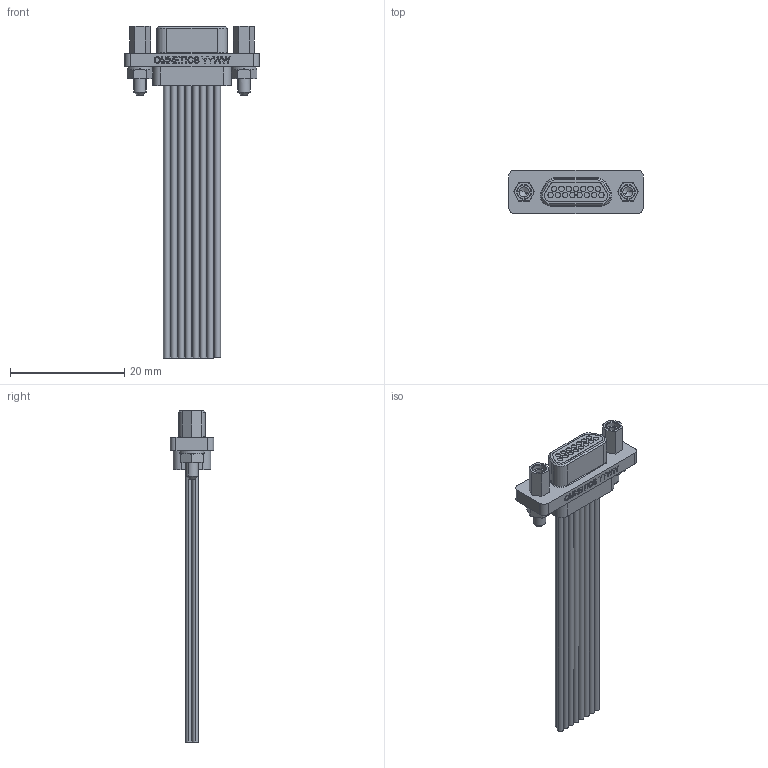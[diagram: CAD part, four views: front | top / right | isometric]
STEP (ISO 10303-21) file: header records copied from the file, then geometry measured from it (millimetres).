
FILE_DESCRIPTION (( 'STEP AP214' ), '1' );
FILE_NAME ('A98003-015 REV B.STEP', '2013-10-08T19:00:20', ( '' ), ( '' ), 'SwSTEP 2.0', 'SolidWorks 2012', '' );
FILE_SCHEMA (( 'AUTOMOTIVE_DESIGN' ));
Length unit declared in the file: inch
Products named in the file (1): A98003-015 REV B
Bounding box: 23.5 x 7.63 x 58.05 mm (x, y, z)
Volume: 1756.2 mm3; surface area: 3556.8 mm2
Topology: 1 solids, 1 shells, 447 faces, 1106 edges, 714 vertices
Faces by surface type: plane 214, cylinder 119, cone 61, bspline 48, torus 5
Entity records: 15866 total; most frequent: CARTESIAN_POINT 5379, ORIENTED_EDGE 2204, DIRECTION 2029, EDGE_CURVE 1102, VERTEX_POINT 714, AXIS2_PLACEMENT_3D 707, VECTOR 615, LINE 615
